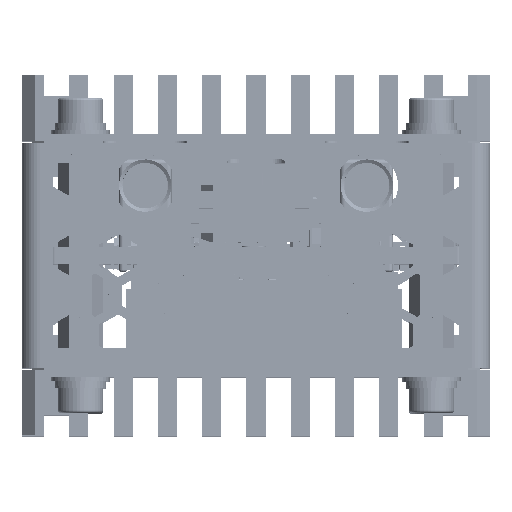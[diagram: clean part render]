
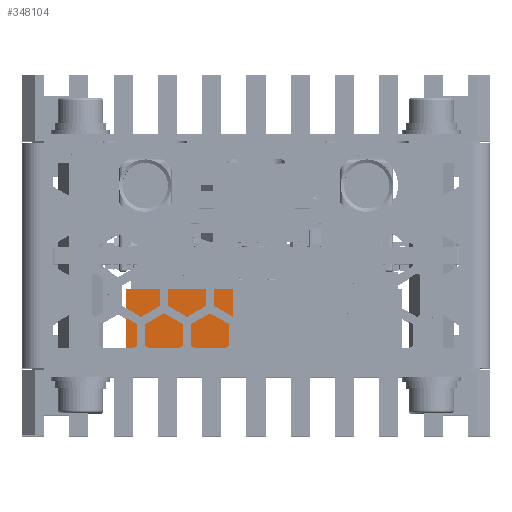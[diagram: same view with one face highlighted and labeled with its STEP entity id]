
A CAD part, top view. The second image highlights one B-rep face of the part: STEP entity #348104.
In plain terms, the highlighted planar face has unit normal (0, 0, 1) as drawn and (0, 1, 0) by its records, which use the part's own axes.
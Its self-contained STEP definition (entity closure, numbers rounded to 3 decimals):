
#3206 = EDGE_CURVE ( 'NONE', #84100, #135829, #25761, .T. ) ;
#3522 = VECTOR ( 'NONE', #65457, 1000. ) ;
#25761 = LINE ( 'NONE', #352950, #100870 ) ;
#26320 = CARTESIAN_POINT ( 'NONE',  ( 20.3, 25., 8. ) ) ;
#33302 = VECTOR ( 'NONE', #356157, 1000. ) ;
#55137 = LINE ( 'NONE', #26320, #3522 ) ;
#57336 = VECTOR ( 'NONE', #369170, 1000. ) ;
#63451 = ORIENTED_EDGE ( 'NONE', *, *, #303121, .T. ) ;
#65457 = DIRECTION ( 'NONE',  ( 0., 0., -1. ) ) ;
#82764 = CARTESIAN_POINT ( 'NONE',  ( 33., 25., 8. ) ) ;
#84100 = VERTEX_POINT ( 'NONE', #116782 ) ;
#100870 = VECTOR ( 'NONE', #141500, 1000. ) ;
#103379 = AXIS2_PLACEMENT_3D ( 'NONE', #214390, #364089, #184309 ) ;
#116782 = CARTESIAN_POINT ( 'NONE',  ( 33., 25., 0. ) ) ;
#127680 = LINE ( 'NONE', #160479, #57336 ) ;
#135829 = VERTEX_POINT ( 'NONE', #138453 ) ;
#138453 = CARTESIAN_POINT ( 'NONE',  ( 20.3, 25., 0. ) ) ;
#141500 = DIRECTION ( 'NONE',  ( -1., 0., 0. ) ) ;
#146084 = CARTESIAN_POINT ( 'NONE',  ( 33., 25., 8. ) ) ;
#155394 = LINE ( 'NONE', #146084, #33302 ) ;
#156706 = PLANE ( 'NONE',  #103379 ) ;
#159970 = EDGE_LOOP ( 'NONE', ( #299255, #293410, #290315, #63451 ) ) ;
#160479 = CARTESIAN_POINT ( 'NONE',  ( 20.3, 25., 8. ) ) ;
#176944 = EDGE_CURVE ( 'NONE', #247634, #378546, #127680, .T. ) ;
#184309 = DIRECTION ( 'NONE',  ( 0., 0., -1. ) ) ;
#214390 = CARTESIAN_POINT ( 'NONE',  ( 20.3, 25., 8. ) ) ;
#229487 = EDGE_CURVE ( 'NONE', #378546, #135829, #55137, .T. ) ;
#247634 = VERTEX_POINT ( 'NONE', #82764 ) ;
#259261 = CARTESIAN_POINT ( 'NONE',  ( 20.3, 25., 8. ) ) ;
#290315 = ORIENTED_EDGE ( 'NONE', *, *, #176944, .F. ) ;
#293410 = ORIENTED_EDGE ( 'NONE', *, *, #229487, .F. ) ;
#299255 = ORIENTED_EDGE ( 'NONE', *, *, #3206, .T. ) ;
#303121 = EDGE_CURVE ( 'NONE', #247634, #84100, #155394, .T. ) ;
#341625 = FACE_OUTER_BOUND ( 'NONE', #159970, .T. ) ;
#348104 = ADVANCED_FACE ( 'NONE', ( #341625 ), #156706, .F. ) ;
#352950 = CARTESIAN_POINT ( 'NONE',  ( 20.3, 25., 0. ) ) ;
#356157 = DIRECTION ( 'NONE',  ( 0., 0., -1. ) ) ;
#364089 = DIRECTION ( 'NONE',  ( 0., -1., 0. ) ) ;
#369170 = DIRECTION ( 'NONE',  ( -1., 0., 0. ) ) ;
#378546 = VERTEX_POINT ( 'NONE', #259261 ) ;
